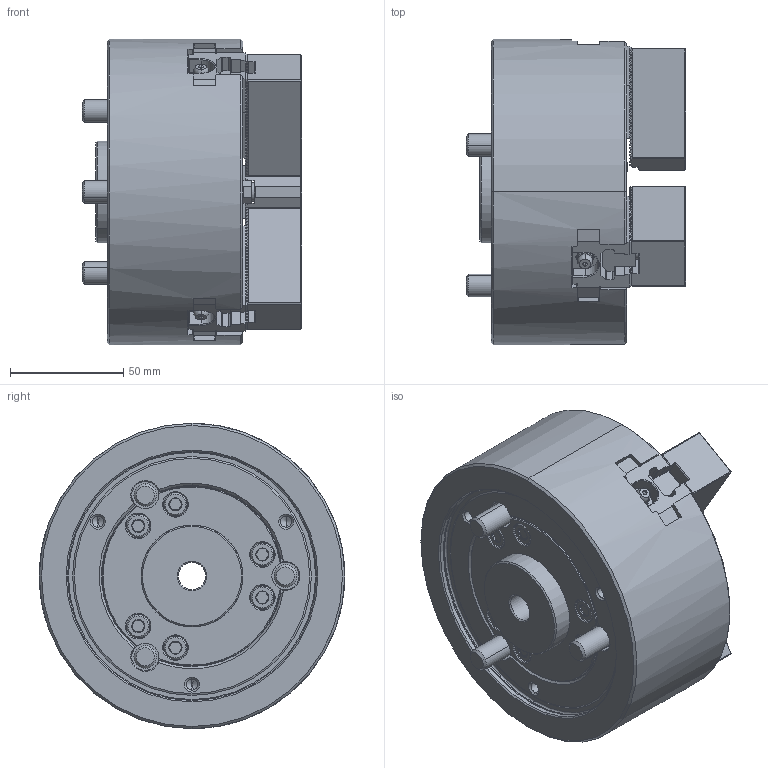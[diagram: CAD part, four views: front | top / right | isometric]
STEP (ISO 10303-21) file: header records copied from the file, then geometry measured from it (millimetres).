
FILE_DESCRIPTION (( 'STEP AP214' ), '1' );
FILE_NAME ('B-205_OC.STEP', '2025-12-03T06:55:17', ( '' ), ( '' ), 'SwSTEP 2.0', 'SolidWorks 2022', '' );
FILE_SCHEMA (( 'AUTOMOTIVE_DESIGN' ));
Length unit declared in the file: millimetre
Products named in the file (9): DT1_B-205_BASE^DT1_B-205; DT1_B-205_M4x8^DT1_B-205; DT1_B-205_M8x20^DT1_B-205; DT1_B-205_TNUT^DT1_B-205; DT1_B-205_M10x60^DT1_B-205; DT1_B-205_DRAWNUT^DT1_B-205; DT1_B-205_SOFTJAW^DT1_B-205; DT1_B-205_COVER^DT1_B-205; B-205_OC
Assembly tree (21 placements, depth 2):
  B-205_OC
    DT1_B-205_SOFTJAW^DT1_B-205  x3
    DT1_B-205_TNUT^DT1_B-205  x3
    DT1_B-205_DRAWNUT^DT1_B-205
    DT1_B-205_COVER^DT1_B-205
    DT1_B-205_BASE^DT1_B-205
    DT1_B-205_M4x8^DT1_B-205  x3
    DT1_B-205_M8x20^DT1_B-205  x6
    DT1_B-205_M10x60^DT1_B-205  x3
Bounding box: 97 x 135 x 135 mm (x, y, z)
Volume: 845330.2 mm3; surface area: 144274.4 mm2
Topology: 21 solids, 33 shells, 3233 faces, 8940 edges, 5830 vertices
Faces by surface type: plane 2401, cylinder 304, cone 301, bspline 162, torus 53, sphere 12
Entity records: 86166 total; most frequent: CARTESIAN_POINT 24339, ORIENTED_EDGE 13566, DIRECTION 11358, EDGE_CURVE 6783, VECTOR 5216, LINE 5216, VERTEX_POINT 4450, AXIS2_PLACEMENT_3D 3071
